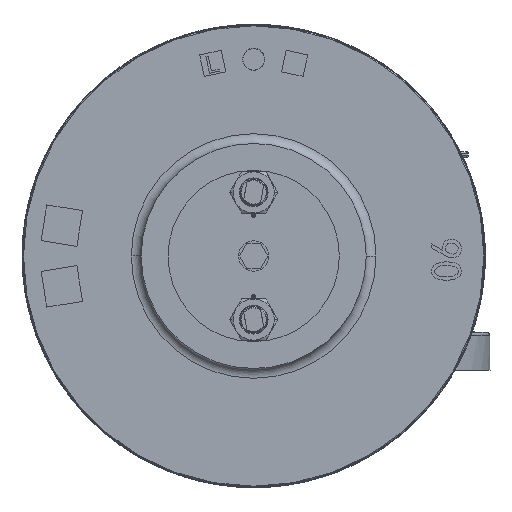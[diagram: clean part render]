
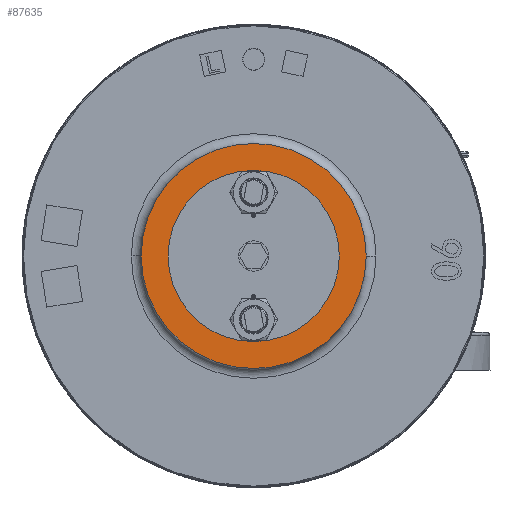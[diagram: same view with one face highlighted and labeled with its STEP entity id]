
A CAD part, left-side view. The second image highlights one B-rep face of the part: STEP entity #87635.
In plain terms, the highlighted planar face has unit normal (-1, 0, 0).
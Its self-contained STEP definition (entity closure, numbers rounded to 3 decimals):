
#1284 = EDGE_CURVE ( 'NONE', #21672, #13895, #11386, .T. ) ;
#9535 = EDGE_CURVE ( 'NONE', #13895, #21672, #91930, .T. ) ;
#11386 = CIRCLE ( 'NONE', #78556, 175. ) ;
#13895 = VERTEX_POINT ( 'NONE', #75480 ) ;
#15604 = DIRECTION ( 'NONE',  ( -1., 0., 0. ) ) ;
#16184 = VERTEX_POINT ( 'NONE', #75528 ) ;
#21672 = VERTEX_POINT ( 'NONE', #90087 ) ;
#24392 = DIRECTION ( 'NONE',  ( 1., 0., 0. ) ) ;
#25663 = CARTESIAN_POINT ( 'NONE',  ( -2016., 203., 168. ) ) ;
#29081 = EDGE_LOOP ( 'NONE', ( #126738, #71589 ) ) ;
#34009 = CARTESIAN_POINT ( 'NONE',  ( -2016., 203., 168. ) ) ;
#34462 = EDGE_CURVE ( 'NONE', #16184, #127301, #86926, .T. ) ;
#37313 = AXIS2_PLACEMENT_3D ( 'NONE', #104923, #74671, #95047 ) ;
#41421 = ORIENTED_EDGE ( 'NONE', *, *, #45621, .T. ) ;
#44134 = ORIENTED_EDGE ( 'NONE', *, *, #34462, .T. ) ;
#44766 = FACE_BOUND ( 'NONE', #29081, .T. ) ;
#45621 = EDGE_CURVE ( 'NONE', #127301, #16184, #117978, .T. ) ;
#52264 = DIRECTION ( 'NONE',  ( -1., 0., 0. ) ) ;
#52489 = DIRECTION ( 'NONE',  ( 0., -1., 0. ) ) ;
#61471 = CARTESIAN_POINT ( 'NONE',  ( -2016., 203., 168. ) ) ;
#61847 = AXIS2_PLACEMENT_3D ( 'NONE', #34009, #83405, #52489 ) ;
#71589 = ORIENTED_EDGE ( 'NONE', *, *, #9535, .F. ) ;
#74671 = DIRECTION ( 'NONE',  ( -1., 0., 0. ) ) ;
#75480 = CARTESIAN_POINT ( 'NONE',  ( -2016., 28., 168. ) ) ;
#75528 = CARTESIAN_POINT ( 'NONE',  ( -2016., 433., 168. ) ) ;
#78556 = AXIS2_PLACEMENT_3D ( 'NONE', #61471, #52264, #93702 ) ;
#83405 = DIRECTION ( 'NONE',  ( -1., 0., 0. ) ) ;
#86926 = CIRCLE ( 'NONE', #61847, 230. ) ;
#87635 = ADVANCED_FACE ( 'NONE', ( #44766, #125659 ), #116415, .F. ) ;
#90087 = CARTESIAN_POINT ( 'NONE',  ( -2016., 378., 168. ) ) ;
#91930 = CIRCLE ( 'NONE', #37313, 175. ) ;
#93702 = DIRECTION ( 'NONE',  ( 0., 1., 0. ) ) ;
#95047 = DIRECTION ( 'NONE',  ( 0., 1., 0. ) ) ;
#97795 = CARTESIAN_POINT ( 'NONE',  ( -2016., 203., 168. ) ) ;
#102774 = EDGE_LOOP ( 'NONE', ( #41421, #44134 ) ) ;
#104923 = CARTESIAN_POINT ( 'NONE',  ( -2016., 203., 168. ) ) ;
#107008 = DIRECTION ( 'NONE',  ( 0., -1., 0. ) ) ;
#107232 = DIRECTION ( 'NONE',  ( 0., 1., 0. ) ) ;
#114245 = AXIS2_PLACEMENT_3D ( 'NONE', #25663, #24392, #107232 ) ;
#116415 = PLANE ( 'NONE',  #114245 ) ;
#117978 = CIRCLE ( 'NONE', #122152, 230. ) ;
#122152 = AXIS2_PLACEMENT_3D ( 'NONE', #97795, #15604, #107008 ) ;
#123947 = CARTESIAN_POINT ( 'NONE',  ( -2016., -27., 168. ) ) ;
#125659 = FACE_OUTER_BOUND ( 'NONE', #102774, .T. ) ;
#126738 = ORIENTED_EDGE ( 'NONE', *, *, #1284, .F. ) ;
#127301 = VERTEX_POINT ( 'NONE', #123947 ) ;
